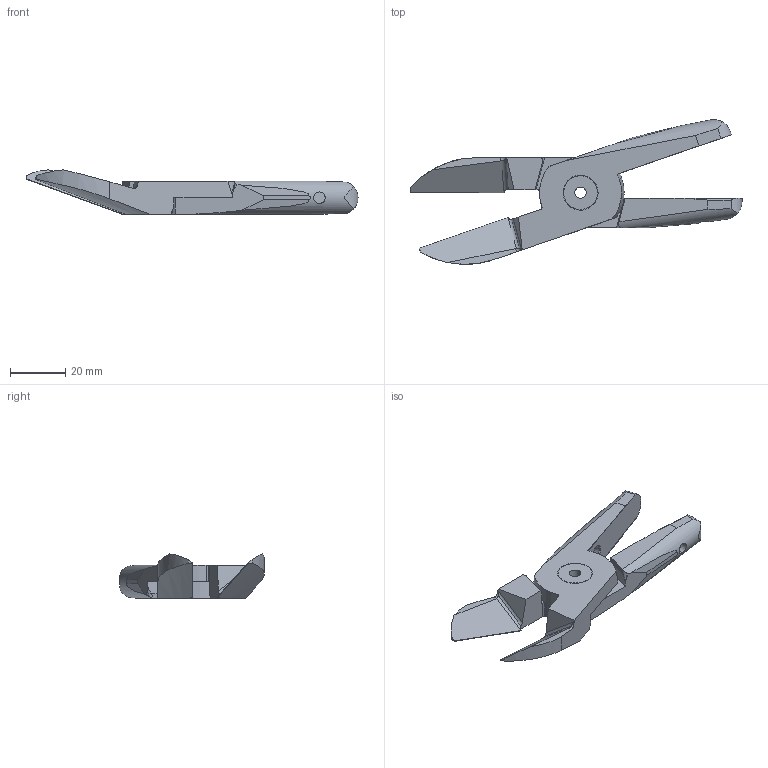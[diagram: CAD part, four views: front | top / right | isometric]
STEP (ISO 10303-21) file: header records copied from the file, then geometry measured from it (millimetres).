
FILE_DESCRIPTION((''),'2;1');
FILE_NAME('GPT-20-DA99RB.stp','2007-03-12T16:08:15',(''),(''),'Mechanical Desktop 2005','Mechanical Desktop 2005',', , ');
FILE_SCHEMA(('CONFIG_CONTROL_DESIGN'));
Length unit declared in the file: inch
Products named in the file (4): GPT-20-DA99RB; 20-DA99RBS; 20-DA99RBO; 9PRIVIT
Assembly tree (3 placements, depth 2):
  GPT-20-DA99RB
    20-DA99RBS
    20-DA99RBO
    9PRIVIT
Bounding box: 120.14 x 52.37 x 16.04 mm (x, y, z)
Volume: 22330.6 mm3; surface area: 11894.5 mm2
Topology: 3 solids, 3 shells, 147 faces, 396 edges, 254 vertices
Faces by surface type: cylinder 64, plane 57, cone 20, torus 4, bspline 2
Entity records: 5109 total; most frequent: CARTESIAN_POINT 1255, DIRECTION 792, ORIENTED_EDGE 784, EDGE_CURVE 392, AXIS2_PLACEMENT_3D 297, VERTEX_POINT 254, VECTOR 198, LINE 198
